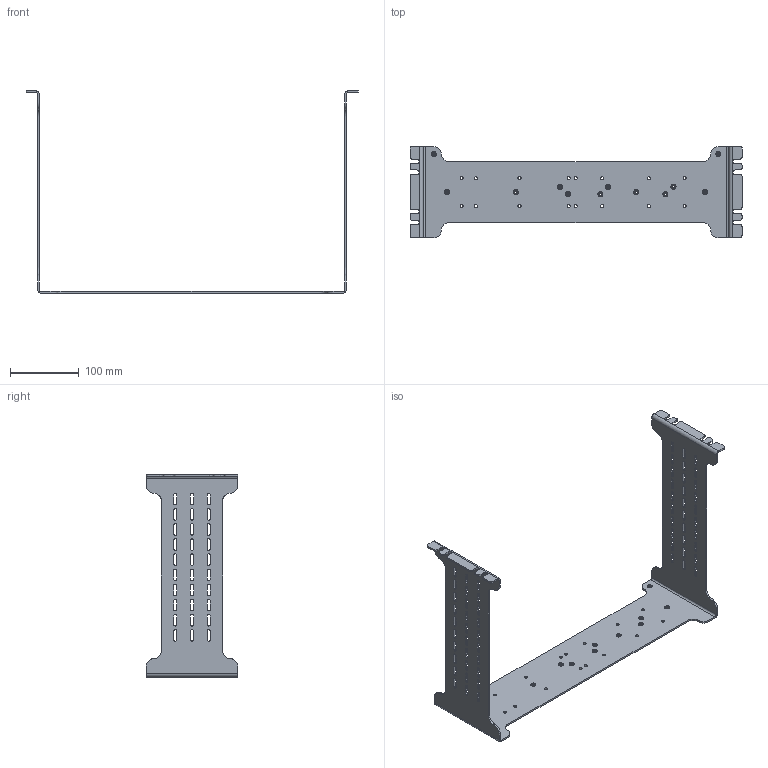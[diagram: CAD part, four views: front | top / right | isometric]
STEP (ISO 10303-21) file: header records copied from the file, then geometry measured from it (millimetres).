
FILE_DESCRIPTION((''),'2;1');
FILE_NAME('CU_3U_CRIO_RM_BRKT','2018-01-11T',('dkendric'),(''),'CREO PARAMETRIC BY PTC INC, 2015380','CREO PARAMETRIC BY PTC INC, 2015380','');
FILE_SCHEMA(('CONFIG_CONTROL_DESIGN'));
Length unit declared in the file: inch
Products named in the file (1): CU_3U_CRIO_RM_BRKT
Bounding box: 482.6 x 132.56 x 294.13 mm (x, y, z)
Volume: 246044.8 mm3; surface area: 208816 mm2
Topology: 1 solids, 1 shells, 640 faces, 1666 edges, 1052 vertices
Faces by surface type: cylinder 300, plane 212, cone 72, torus 48, bspline 8
Entity records: 23132 total; most frequent: CARTESIAN_POINT 6612, DIRECTION 3562, ORIENTED_EDGE 3332, EDGE_CURVE 1666, AXIS2_PLACEMENT_3D 1328, VERTEX_POINT 1052, VECTOR 906, LINE 906
